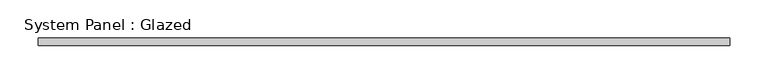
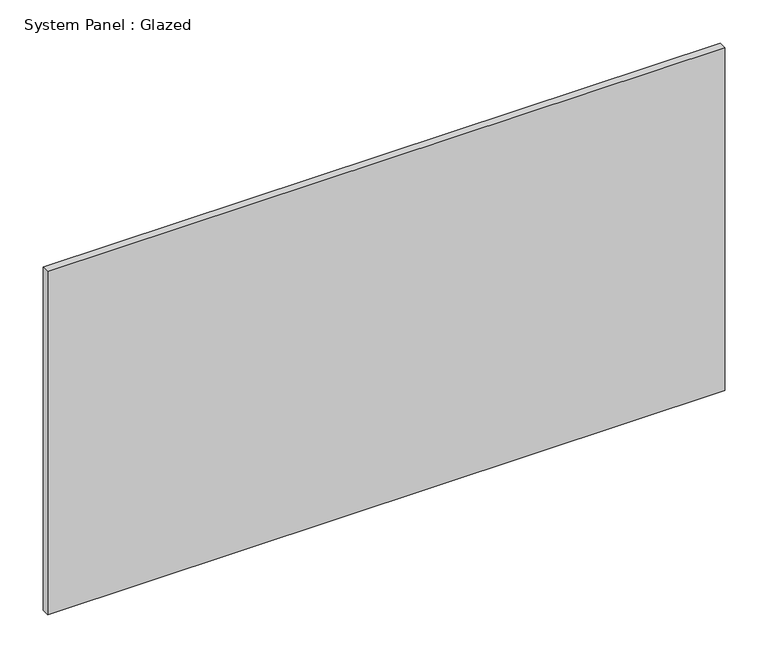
"""IFC4 building model written with IfcOpenShell, lengths in millimetres: plate geometry, System Panel : Glazed."""

from ifc_helpers import new_model, si_unit, origin, origin_with_axes, place, context, project, spatial, polyline, outline, extrude, source, transform, mapped, element, save


def system_panel_glazed_32a98a9a(model_context):
    return source(origin(), model_context, "Body", "SweptSolid", [
        extrude(outline(polyline([(452.4861372, -5.0), (-452.4861372, -5.0), (-452.4861372, 5.0), (452.4861372, 5.0), (452.4861372, -5.0)])), origin_with_axes(), (0.0, 0.0, 1.0), 485.0),
    ])


if __name__ == "__main__":
    model = new_model("IFC4")
    model_context = context("Model", 3, world=origin())
    ifc_project = project(units=[si_unit("LENGTHUNIT", "METRE", prefix="MILLI")], contexts=[model_context])
    site = spatial("IfcSite", under=ifc_project)
    building = spatial("IfcBuilding", under=site)
    placement = place(None, origin())
    system_panel_glazed_shape = system_panel_glazed_32a98a9a(model_context)
    element("IfcPlate", 1, ObjectType="System Panel : Glazed", at=placement, inside=building, context=model_context, shape_type="MappedRepresentation", body=[
        mapped(system_panel_glazed_shape, transform((0.0, 0.0, 0.0), x_axis=(1.0, 0.0, 0.0), y_axis=(0.0, 1.0, 0.0), z_axis=(0.0, 0.0, 1.0))),
    ])
    save(model, "model.ifc")
